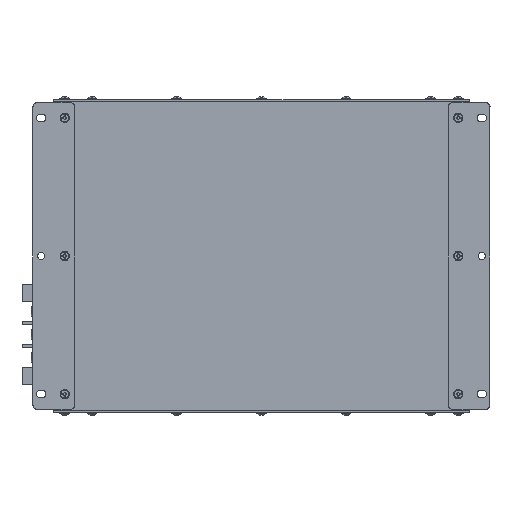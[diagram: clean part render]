
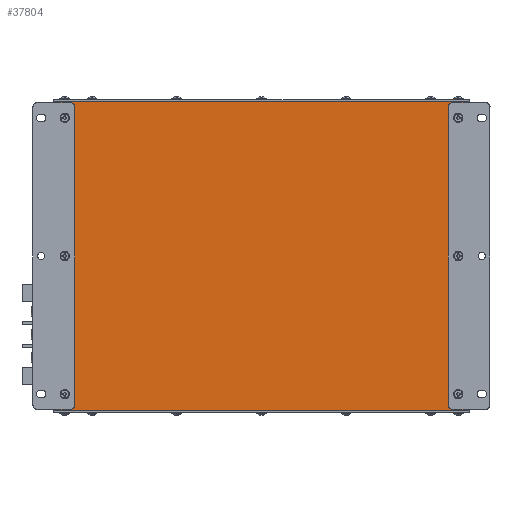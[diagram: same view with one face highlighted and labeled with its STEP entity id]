
A CAD part, front view. The second image highlights one B-rep face of the part: STEP entity #37804.
In plain terms, the highlighted planar face has unit normal (0, -1, 0).
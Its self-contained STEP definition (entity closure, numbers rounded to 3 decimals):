
#3744=CIRCLE('',#40251,0.157);
#3745=CIRCLE('',#40252,0.157);
#3746=CIRCLE('',#40253,0.157);
#3747=CIRCLE('',#40254,0.157);
#5890=FACE_OUTER_BOUND('',#8031,.T.);
#8031=EDGE_LOOP('',(#26604,#26605,#26606,#26607,#26608,#26609,#26610,#26611,
#26612,#26613,#26614,#26615,#26616,#26617,#26618,#26619));
#10444=LINE('',#54776,#13407);
#10446=LINE('',#54780,#13409);
#10487=LINE('',#55033,#13450);
#10488=LINE('',#55035,#13451);
#10489=LINE('',#55037,#13452);
#10490=LINE('',#55039,#13453);
#10491=LINE('',#55043,#13454);
#10492=LINE('',#55047,#13455);
#10493=LINE('',#55049,#13456);
#10494=LINE('',#55050,#13457);
#10495=LINE('',#55052,#13458);
#10496=LINE('',#55056,#13459);
#13407=VECTOR('',#44628,0.394);
#13409=VECTOR('',#44630,0.394);
#13450=VECTOR('',#44851,0.394);
#13451=VECTOR('',#44852,0.394);
#13452=VECTOR('',#44853,0.394);
#13453=VECTOR('',#44854,0.394);
#13454=VECTOR('',#44857,0.394);
#13455=VECTOR('',#44860,0.394);
#13456=VECTOR('',#44861,0.394);
#13457=VECTOR('',#44862,0.394);
#13458=VECTOR('',#44863,0.394);
#13459=VECTOR('',#44866,0.394);
#16461=VERTEX_POINT('',#54773);
#16462=VERTEX_POINT('',#54775);
#16463=VERTEX_POINT('',#54777);
#16464=VERTEX_POINT('',#54779);
#16586=VERTEX_POINT('',#55032);
#16587=VERTEX_POINT('',#55034);
#16588=VERTEX_POINT('',#55036);
#16589=VERTEX_POINT('',#55038);
#16590=VERTEX_POINT('',#55040);
#16591=VERTEX_POINT('',#55042);
#16592=VERTEX_POINT('',#55044);
#16593=VERTEX_POINT('',#55046);
#16594=VERTEX_POINT('',#55048);
#16595=VERTEX_POINT('',#55051);
#16596=VERTEX_POINT('',#55053);
#16597=VERTEX_POINT('',#55055);
#20341=EDGE_CURVE('',#16461,#16462,#10444,.T.);
#20343=EDGE_CURVE('',#16463,#16464,#10446,.T.);
#20469=EDGE_CURVE('',#16586,#16462,#10487,.T.);
#20470=EDGE_CURVE('',#16587,#16461,#10488,.T.);
#20471=EDGE_CURVE('',#16588,#16587,#10489,.T.);
#20472=EDGE_CURVE('',#16588,#16589,#10490,.T.);
#20473=EDGE_CURVE('',#16589,#16590,#3744,.T.);
#20474=EDGE_CURVE('',#16590,#16591,#10491,.T.);
#20475=EDGE_CURVE('',#16591,#16592,#3745,.T.);
#20476=EDGE_CURVE('',#16592,#16593,#10492,.T.);
#20477=EDGE_CURVE('',#16594,#16593,#10493,.T.);
#20478=EDGE_CURVE('',#16464,#16594,#10494,.T.);
#20479=EDGE_CURVE('',#16463,#16595,#10495,.T.);
#20480=EDGE_CURVE('',#16595,#16596,#3746,.T.);
#20481=EDGE_CURVE('',#16596,#16597,#10496,.T.);
#20482=EDGE_CURVE('',#16597,#16586,#3747,.T.);
#26604=ORIENTED_EDGE('',*,*,#20469,.T.);
#26605=ORIENTED_EDGE('',*,*,#20341,.F.);
#26606=ORIENTED_EDGE('',*,*,#20470,.F.);
#26607=ORIENTED_EDGE('',*,*,#20471,.F.);
#26608=ORIENTED_EDGE('',*,*,#20472,.T.);
#26609=ORIENTED_EDGE('',*,*,#20473,.T.);
#26610=ORIENTED_EDGE('',*,*,#20474,.T.);
#26611=ORIENTED_EDGE('',*,*,#20475,.T.);
#26612=ORIENTED_EDGE('',*,*,#20476,.T.);
#26613=ORIENTED_EDGE('',*,*,#20477,.F.);
#26614=ORIENTED_EDGE('',*,*,#20478,.F.);
#26615=ORIENTED_EDGE('',*,*,#20343,.F.);
#26616=ORIENTED_EDGE('',*,*,#20479,.T.);
#26617=ORIENTED_EDGE('',*,*,#20480,.T.);
#26618=ORIENTED_EDGE('',*,*,#20481,.T.);
#26619=ORIENTED_EDGE('',*,*,#20482,.T.);
#36626=PLANE('',#40250);
#37804=ADVANCED_FACE('',(#5890),#36626,.F.);
#40250=AXIS2_PLACEMENT_3D('',#55031,#44849,#44850);
#40251=AXIS2_PLACEMENT_3D('',#55041,#44855,#44856);
#40252=AXIS2_PLACEMENT_3D('',#55045,#44858,#44859);
#40253=AXIS2_PLACEMENT_3D('',#55054,#44864,#44865);
#40254=AXIS2_PLACEMENT_3D('',#55057,#44867,#44868);
#44628=DIRECTION('',(0.,0.,-1.));
#44630=DIRECTION('',(0.,0.,-1.));
#44849=DIRECTION('center_axis',(0.,1.,0.));
#44850=DIRECTION('ref_axis',(0.,0.,1.));
#44851=DIRECTION('',(1.,0.,0.));
#44852=DIRECTION('',(1.,0.,0.));
#44853=DIRECTION('',(0.,0.,1.));
#44854=DIRECTION('',(1.,0.,0.));
#44855=DIRECTION('center_axis',(0.,1.,0.));
#44856=DIRECTION('ref_axis',(1.,0.,0.));
#44857=DIRECTION('',(0.,0.,-1.));
#44858=DIRECTION('center_axis',(0.,1.,0.));
#44859=DIRECTION('ref_axis',(0.,0.,-1.));
#44860=DIRECTION('',(-1.,0.,0.));
#44861=DIRECTION('',(0.,0.,1.));
#44862=DIRECTION('',(-1.,0.,0.));
#44863=DIRECTION('',(-1.,0.,0.));
#44864=DIRECTION('center_axis',(0.,1.,0.));
#44865=DIRECTION('ref_axis',(-1.,0.,0.));
#44866=DIRECTION('',(0.,0.,1.));
#44867=DIRECTION('center_axis',(0.,1.,0.));
#44868=DIRECTION('ref_axis',(0.,0.,1.));
#54773=CARTESIAN_POINT('',(0.,0.,10.335));
#54775=CARTESIAN_POINT('',(0.,0.,10.311));
#54776=CARTESIAN_POINT('',(0.,0.,10.335));
#54777=CARTESIAN_POINT('',(0.,0.,-0.712));
#54779=CARTESIAN_POINT('',(0.,0.,-0.736));
#54780=CARTESIAN_POINT('',(0.,0.,10.335));
#55031=CARTESIAN_POINT('Origin',(-7.461,0.,4.799));
#55032=CARTESIAN_POINT('',(-0.591,0.,10.311));
#55033=CARTESIAN_POINT('',(-3.435,0.,10.311));
#55034=CARTESIAN_POINT('',(-14.922,0.,10.335));
#55035=CARTESIAN_POINT('',(-14.922,0.,10.335));
#55036=CARTESIAN_POINT('',(-14.922,0.,10.311));
#55037=CARTESIAN_POINT('',(-14.922,0.,-0.736));
#55038=CARTESIAN_POINT('',(-14.331,0.,10.311));
#55039=CARTESIAN_POINT('',(-10.896,0.,10.311));
#55040=CARTESIAN_POINT('',(-14.174,0.,10.154));
#55041=CARTESIAN_POINT('Origin',(-14.331,0.,10.154));
#55042=CARTESIAN_POINT('',(-14.174,0.,-0.555));
#55043=CARTESIAN_POINT('',(-14.174,0.,2.122));
#55044=CARTESIAN_POINT('',(-14.331,0.,-0.712));
#55045=CARTESIAN_POINT('Origin',(-14.331,0.,-0.555));
#55046=CARTESIAN_POINT('',(-14.922,0.,-0.712));
#55047=CARTESIAN_POINT('',(-11.487,0.,-0.712));
#55048=CARTESIAN_POINT('',(-14.922,0.,-0.736));
#55049=CARTESIAN_POINT('',(-14.922,0.,-0.736));
#55050=CARTESIAN_POINT('',(0.,0.,-0.736));
#55051=CARTESIAN_POINT('',(-0.591,0.,-0.712));
#55052=CARTESIAN_POINT('',(-4.026,0.,-0.712));
#55053=CARTESIAN_POINT('',(-0.748,0.,-0.555));
#55054=CARTESIAN_POINT('Origin',(-0.591,0.,-0.555));
#55055=CARTESIAN_POINT('',(-0.748,0.,10.154));
#55056=CARTESIAN_POINT('',(-0.748,0.,7.477));
#55057=CARTESIAN_POINT('Origin',(-0.591,0.,10.154));
